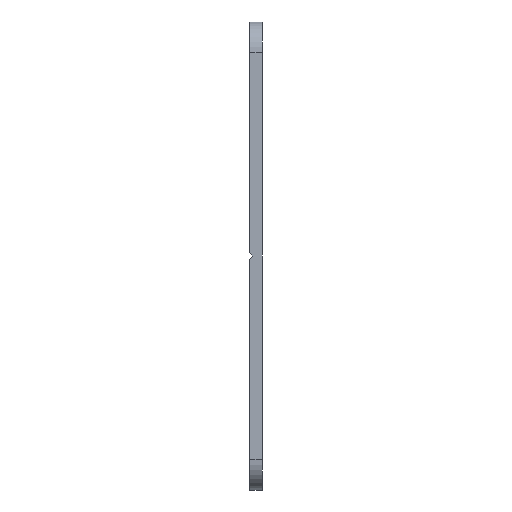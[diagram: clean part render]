
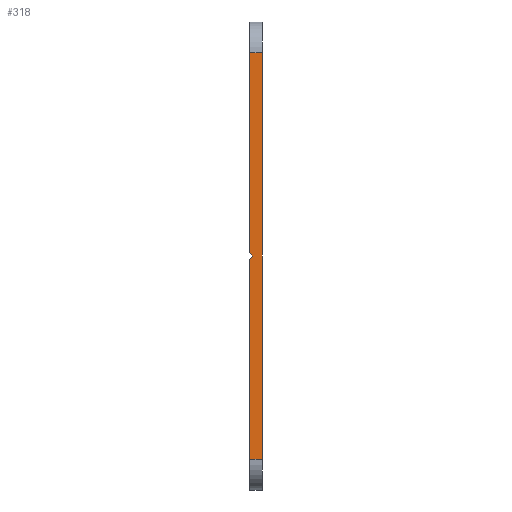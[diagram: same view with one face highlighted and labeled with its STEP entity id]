
A CAD part, left-side view. The second image highlights one B-rep face of the part: STEP entity #318.
In plain terms, the highlighted planar face has unit normal (-1, 0, 0).
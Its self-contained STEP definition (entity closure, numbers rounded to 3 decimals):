
#14 = CARTESIAN_POINT ( 'NONE',  ( -305., 12., -200. ) ) ;
#28 = VERTEX_POINT ( 'NONE', #837 ) ;
#54 = DIRECTION ( 'NONE',  ( 0., 0., 1. ) ) ;
#63 = FACE_OUTER_BOUND ( 'NONE', #829, .T. ) ;
#73 = ORIENTED_EDGE ( 'NONE', *, *, #958, .T. ) ;
#82 = VERTEX_POINT ( 'NONE', #411 ) ;
#100 = CARTESIAN_POINT ( 'NONE',  ( -305., 0., 200. ) ) ;
#188 = CARTESIAN_POINT ( 'NONE',  ( -305., 12., 3. ) ) ;
#202 = CARTESIAN_POINT ( 'NONE',  ( -305., 12., -3. ) ) ;
#231 = ORIENTED_EDGE ( 'NONE', *, *, #1206, .T. ) ;
#234 = VECTOR ( 'NONE', #639, 1000. ) ;
#253 = EDGE_CURVE ( 'NONE', #1721, #1593, #290, .T. ) ;
#278 = EDGE_CURVE ( 'NONE', #82, #580, #1728, .T. ) ;
#290 = LINE ( 'NONE', #295, #1540 ) ;
#295 = CARTESIAN_POINT ( 'NONE',  ( -305., 12., 200. ) ) ;
#318 = ADVANCED_FACE ( 'NONE', ( #63 ), #1260, .F. ) ;
#369 = ORIENTED_EDGE ( 'NONE', *, *, #479, .T. ) ;
#376 = ORIENTED_EDGE ( 'NONE', *, *, #253, .F. ) ;
#379 = DIRECTION ( 'NONE',  ( 0., 0., 1. ) ) ;
#411 = CARTESIAN_POINT ( 'NONE',  ( -305., 12., 200. ) ) ;
#479 = EDGE_CURVE ( 'NONE', #1176, #580, #1958, .T. ) ;
#493 = VECTOR ( 'NONE', #1111, 1000. ) ;
#526 = CARTESIAN_POINT ( 'NONE',  ( -305., 12., 200. ) ) ;
#580 = VERTEX_POINT ( 'NONE', #1934 ) ;
#639 = DIRECTION ( 'NONE',  ( 0., 0.707, -0.707 ) ) ;
#661 = CARTESIAN_POINT ( 'NONE',  ( -305., 12., 200. ) ) ;
#702 = VECTOR ( 'NONE', #379, 1000. ) ;
#788 = VECTOR ( 'NONE', #1461, 1000. ) ;
#817 = ORIENTED_EDGE ( 'NONE', *, *, #278, .F. ) ;
#829 = EDGE_LOOP ( 'NONE', ( #1278, #231, #73, #376, #1758, #369, #817 ) ) ;
#837 = CARTESIAN_POINT ( 'NONE',  ( -305., 9., 0. ) ) ;
#868 = DIRECTION ( 'NONE',  ( 0., -0.707, -0.707 ) ) ;
#891 = VECTOR ( 'NONE', #868, 1000. ) ;
#906 = DIRECTION ( 'NONE',  ( 0., 0., 1. ) ) ;
#919 = AXIS2_PLACEMENT_3D ( 'NONE', #1876, #1742, #1597 ) ;
#955 = LINE ( 'NONE', #202, #234 ) ;
#958 = EDGE_CURVE ( 'NONE', #28, #1593, #955, .T. ) ;
#1111 = DIRECTION ( 'NONE',  ( 0., -1., 0. ) ) ;
#1166 = CARTESIAN_POINT ( 'NONE',  ( -305., 9., 0. ) ) ;
#1176 = VERTEX_POINT ( 'NONE', #1676 ) ;
#1206 = EDGE_CURVE ( 'NONE', #1695, #28, #1809, .T. ) ;
#1260 = PLANE ( 'NONE',  #919 ) ;
#1278 = ORIENTED_EDGE ( 'NONE', *, *, #1419, .F. ) ;
#1351 = VECTOR ( 'NONE', #54, 1000. ) ;
#1377 = EDGE_CURVE ( 'NONE', #1721, #1176, #1757, .T. ) ;
#1419 = EDGE_CURVE ( 'NONE', #1695, #82, #1451, .T. ) ;
#1428 = CARTESIAN_POINT ( 'NONE',  ( -305., 12., -200. ) ) ;
#1451 = LINE ( 'NONE', #661, #1351 ) ;
#1461 = DIRECTION ( 'NONE',  ( 0., -1., 0. ) ) ;
#1540 = VECTOR ( 'NONE', #906, 1000. ) ;
#1555 = CARTESIAN_POINT ( 'NONE',  ( -305., 12., -3. ) ) ;
#1593 = VERTEX_POINT ( 'NONE', #1555 ) ;
#1597 = DIRECTION ( 'NONE',  ( 0., 0., -1. ) ) ;
#1676 = CARTESIAN_POINT ( 'NONE',  ( -305., 0., -200. ) ) ;
#1695 = VERTEX_POINT ( 'NONE', #188 ) ;
#1721 = VERTEX_POINT ( 'NONE', #14 ) ;
#1728 = LINE ( 'NONE', #526, #493 ) ;
#1742 = DIRECTION ( 'NONE',  ( 1., 0., 0. ) ) ;
#1757 = LINE ( 'NONE', #1428, #788 ) ;
#1758 = ORIENTED_EDGE ( 'NONE', *, *, #1377, .T. ) ;
#1809 = LINE ( 'NONE', #1166, #891 ) ;
#1876 = CARTESIAN_POINT ( 'NONE',  ( -305., 12., 200. ) ) ;
#1934 = CARTESIAN_POINT ( 'NONE',  ( -305., 0., 200. ) ) ;
#1958 = LINE ( 'NONE', #100, #702 ) ;
